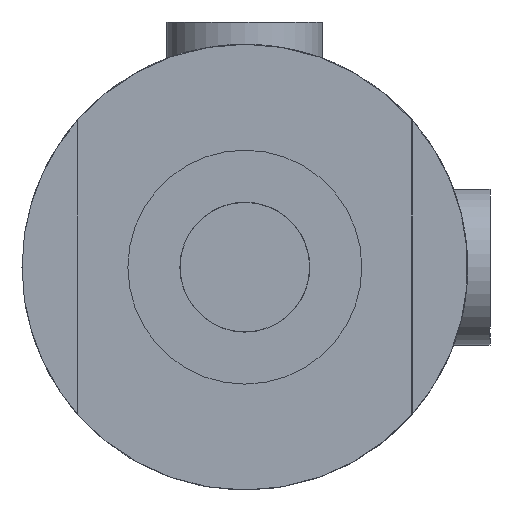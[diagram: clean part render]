
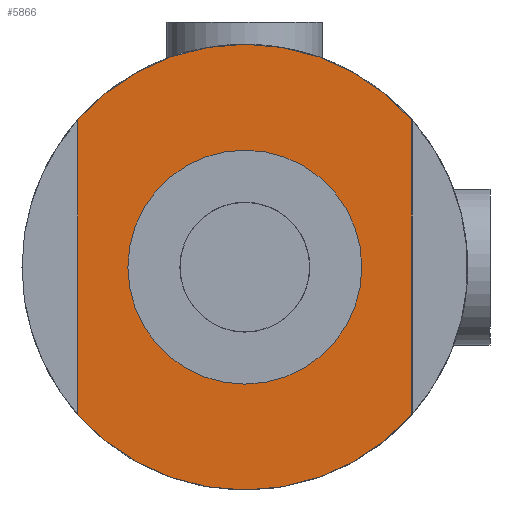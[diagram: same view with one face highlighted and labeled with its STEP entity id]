
A CAD part, left-side view. The second image highlights one B-rep face of the part: STEP entity #5866.
In plain terms, the highlighted planar face has unit normal (-1, 0, 0) as drawn and (1, 0, 0) by its records, which use the part's own axes.
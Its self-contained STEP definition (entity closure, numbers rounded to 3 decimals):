
#616=FACE_BOUND('',#1170,.T.);
#672=PLANE('',#6291);
#818=FACE_OUTER_BOUND('',#1169,.T.);
#1169=EDGE_LOOP('',(#4108,#4109,#4110,#4111));
#1170=EDGE_LOOP('',(#4112));
#1554=LINE('',#8216,#1969);
#1558=LINE('',#8229,#1973);
#1969=VECTOR('',#6816,10.);
#1973=VECTOR('',#6828,10.);
#2384=CIRCLE('',#6275,10.5);
#2394=CIRCLE('',#6292,20.);
#2395=CIRCLE('',#6293,20.);
#2598=VERTEX_POINT('',#8194);
#2605=VERTEX_POINT('',#8214);
#2606=VERTEX_POINT('',#8215);
#2610=VERTEX_POINT('',#8227);
#2611=VERTEX_POINT('',#8228);
#3183=EDGE_CURVE('',#2598,#2598,#2384,.T.);
#3193=EDGE_CURVE('',#2605,#2606,#1554,.T.);
#3199=EDGE_CURVE('',#2610,#2611,#1558,.T.);
#3204=EDGE_CURVE('',#2606,#2610,#2394,.T.);
#3205=EDGE_CURVE('',#2611,#2605,#2395,.T.);
#4108=ORIENTED_EDGE('',*,*,#3193,.T.);
#4109=ORIENTED_EDGE('',*,*,#3204,.T.);
#4110=ORIENTED_EDGE('',*,*,#3199,.T.);
#4111=ORIENTED_EDGE('',*,*,#3205,.T.);
#4112=ORIENTED_EDGE('',*,*,#3183,.T.);
#5866=ADVANCED_FACE('',(#818,#616),#672,.F.);
#6275=AXIS2_PLACEMENT_3D('',#8195,#6793,#6794);
#6291=AXIS2_PLACEMENT_3D('',#8237,#6836,#6837);
#6292=AXIS2_PLACEMENT_3D('',#8238,#6838,#6839);
#6293=AXIS2_PLACEMENT_3D('',#8239,#6840,#6841);
#6793=DIRECTION('center_axis',(-1.,0.,0.));
#6794=DIRECTION('ref_axis',(0.,0.,-1.));
#6816=DIRECTION('',(0.,1.,0.));
#6828=DIRECTION('',(0.,-1.,0.));
#6836=DIRECTION('center_axis',(-1.,0.,0.));
#6837=DIRECTION('ref_axis',(0.,0.,1.));
#6838=DIRECTION('center_axis',(1.,0.,0.));
#6839=DIRECTION('ref_axis',(0.,0.,1.));
#6840=DIRECTION('center_axis',(1.,0.,0.));
#6841=DIRECTION('ref_axis',(0.,0.,1.));
#8194=CARTESIAN_POINT('',(34.,0.,10.5));
#8195=CARTESIAN_POINT('Origin',(34.,0.,0.));
#8214=CARTESIAN_POINT('',(34.,-13.229,-15.));
#8215=CARTESIAN_POINT('',(34.,13.229,-15.));
#8216=CARTESIAN_POINT('',(34.,-6.614,-15.));
#8227=CARTESIAN_POINT('',(34.,13.229,15.));
#8228=CARTESIAN_POINT('',(34.,-13.229,15.));
#8229=CARTESIAN_POINT('',(34.,6.614,15.));
#8237=CARTESIAN_POINT('Origin',(34.,0.,0.));
#8238=CARTESIAN_POINT('Origin',(34.,0.,0.));
#8239=CARTESIAN_POINT('Origin',(34.,0.,0.));
